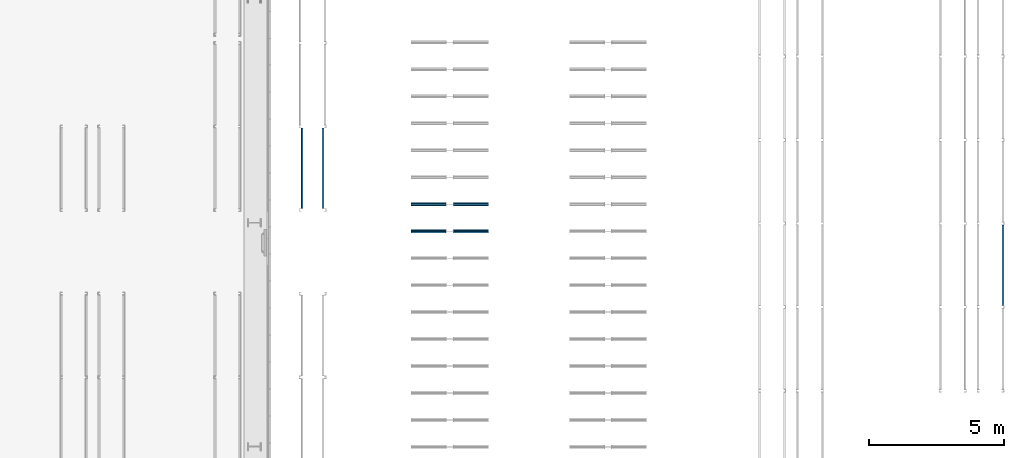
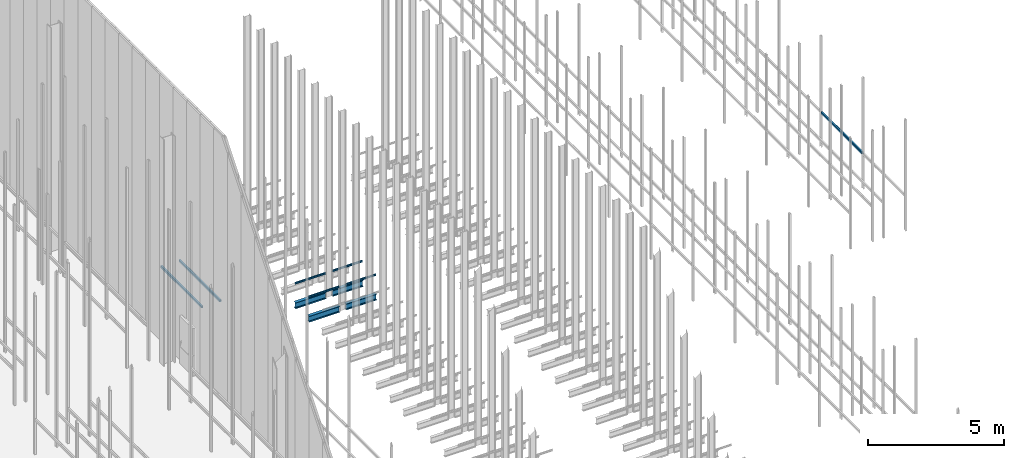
# One storey, part 180 of 302: 11 beams.
"""IFC2X3 building model written with IfcOpenShell, lengths in metres."""

from ifc_helpers import new_model, entity, si_unit, converted_unit, derived_unit, direction, frame, frame_2d, origin, place, context, subcontext, project, spatial, polyline, circle_curve, parameter, trimmed, segment, composite_curve, i_section, outline, extrude, material, type_object, element, save


model = new_model("IFC2X3")

# Units and contexts
model_context = context("Model", 3, precision=1e-05, world=origin(), true_north=direction((6.12303176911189e-17, 1.0)))
body_context = subcontext(model_context, "Body", "Model", "MODEL_VIEW")
ifc_project = project(units=[si_unit("LENGTHUNIT", "METRE"), si_unit("AREAUNIT", "SQUARE_METRE"), si_unit("VOLUMEUNIT", "CUBIC_METRE"), converted_unit("PLANEANGLEUNIT", "DEGREE", entity("IfcRatioMeasure", 0.0174532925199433), si_unit("PLANEANGLEUNIT", "RADIAN"), dimensions=[0, 0, 0, 0, 0, 0, 0]), si_unit("MASSUNIT", "GRAM", prefix="KILO"), derived_unit("MASSDENSITYUNIT", [(si_unit("MASSUNIT", "GRAM", prefix="KILO"), 1), (si_unit("LENGTHUNIT", "METRE"), -3)]), derived_unit("MOMENTOFINERTIAUNIT", [(si_unit("LENGTHUNIT", "METRE"), 4)]), si_unit("TIMEUNIT", "SECOND"), si_unit("FREQUENCYUNIT", "HERTZ"), si_unit("THERMODYNAMICTEMPERATUREUNIT", "DEGREE_CELSIUS"), derived_unit("THERMALTRANSMITTANCEUNIT", [(si_unit("MASSUNIT", "GRAM", prefix="KILO"), 1), (si_unit("THERMODYNAMICTEMPERATUREUNIT", "KELVIN"), -1), (si_unit("TIMEUNIT", "SECOND"), -3)]), derived_unit("VOLUMETRICFLOWRATEUNIT", [(si_unit("LENGTHUNIT", "METRE"), 3), (si_unit("TIMEUNIT", "SECOND"), -1)]), si_unit("ELECTRICCURRENTUNIT", "AMPERE"), si_unit("ELECTRICVOLTAGEUNIT", "VOLT"), si_unit("POWERUNIT", "WATT"), si_unit("FORCEUNIT", "NEWTON", prefix="KILO"), si_unit("ILLUMINANCEUNIT", "LUX"), si_unit("LUMINOUSFLUXUNIT", "LUMEN"), si_unit("LUMINOUSINTENSITYUNIT", "CANDELA"), derived_unit("USERDEFINED", [(si_unit("MASSUNIT", "GRAM", prefix="KILO"), -1), (si_unit("LENGTHUNIT", "METRE"), -2), (si_unit("TIMEUNIT", "SECOND"), 3), (si_unit("LUMINOUSFLUXUNIT", "LUMEN"), 1)]), derived_unit("LINEARVELOCITYUNIT", [(si_unit("LENGTHUNIT", "METRE"), 1), (si_unit("TIMEUNIT", "SECOND"), -1)]), si_unit("PRESSUREUNIT", "PASCAL"), derived_unit("USERDEFINED", [(si_unit("LENGTHUNIT", "METRE"), -2), (si_unit("MASSUNIT", "GRAM", prefix="KILO"), 1), (si_unit("TIMEUNIT", "SECOND"), -2)]), derived_unit("LINEARFORCEUNIT", [(si_unit("MASSUNIT", "GRAM", prefix="KILO"), 1), (si_unit("LENGTHUNIT", "METRE"), 1), (si_unit("TIMEUNIT", "SECOND"), -2), (si_unit("LENGTHUNIT", "METRE"), -1)]), derived_unit("PLANARFORCEUNIT", [(si_unit("MASSUNIT", "GRAM", prefix="KILO"), 1), (si_unit("LENGTHUNIT", "METRE"), 1), (si_unit("TIMEUNIT", "SECOND"), -2), (si_unit("LENGTHUNIT", "METRE"), -2)])], contexts=[model_context])

# Site, building, storey
site_placement = place(None, origin())
site = spatial("IfcSite", under=ifc_project, at=site_placement, Name="Default", CompositionType="ELEMENT")
building_placement = place(site_placement, origin())
building = spatial("IfcBuilding", under=site, at=building_placement, CompositionType="ELEMENT")
storey_placement = place(building_placement, frame((0.0, 0.0, -1.3)))
storey = spatial("IfcBuildingStorey", under=building, at=storey_placement, Name="00_EG", CompositionType="ELEMENT", Elevation=-1.3)

# Beams
ifc_material_1 = material(Name="Metall - Baustahl S235 blau")
beam_type_1 = type_object("IfcBeamType", Name="RHS Träger (EN 10219-2):RHS 100 x 75 x 5", PredefinedType="NOTDEFINED")
beam_1_placement = place(storey_placement, frame((-175.305111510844, 48.8480889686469, 2.885), z_axis=(0.0, 0.0, 1.0), x_axis=(0.0, 1.0, 0.0)))
element("IfcBeam", 1, at=beam_1_placement, inside=storey, type_object=beam_type_1, material=ifc_material_1, Name="RHS Träger (EN 10219-2):RHS 100 x 75 x 5", ObjectType="RHS Träger (EN 10219-2):RHS 100 x 75 x 5", context=body_context, shape_type="SweptSolid", body=[
    extrude(outline(composite_curve([segment(trimmed(circle_curve(frame_2d((-0.0274999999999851, -0.0400000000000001), x_axis=(1.0, 0.0)), 0.01), [parameter(180.0)], [parameter(270.0)], True, "PARAMETER"), True, "CONTINUOUS"), segment(polyline([(-0.0274999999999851, -0.05), (0.0274999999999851, -0.05)]), True, "CONTINUOUS"), segment(trimmed(circle_curve(frame_2d((0.0274999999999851, -0.0400000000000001), x_axis=(1.0, 0.0)), 0.01), [parameter(270.0)], [parameter(5.08888749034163e-14)], True, "PARAMETER"), True, "CONTINUOUS"), segment(polyline([(0.0375000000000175, -0.0399999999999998), (0.0375000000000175, 0.0400000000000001)]), True, "CONTINUOUS"), segment(trimmed(circle_curve(frame_2d((0.0274999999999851, 0.0399999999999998), x_axis=(1.0, 0.0)), 0.01), [parameter(360.0)], [parameter(89.9999999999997)], True, "PARAMETER"), True, "CONTINUOUS"), segment(polyline([(0.0274999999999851, 0.05), (-0.0274999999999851, 0.05)]), True, "CONTINUOUS"), segment(trimmed(circle_curve(frame_2d((-0.0274999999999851, 0.0399999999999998), x_axis=(1.0, 0.0)), 0.01), [parameter(90.0000000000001)], [parameter(180.0)], True, "PARAMETER"), True, "CONTINUOUS"), segment(polyline([(-0.0374999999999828, 0.0400000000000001), (-0.0374999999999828, -0.0399999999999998)]), True, "CONTINUOUS")], self_intersect=False), holes=[composite_curve([segment(polyline([(0.0274999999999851, -0.0450000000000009), (-0.0274999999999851, -0.0450000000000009)]), True, "CONTINUOUS"), segment(trimmed(circle_curve(frame_2d((-0.0274999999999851, -0.0400000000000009), x_axis=(1.0, 0.0)), 0.005), [parameter(180.0)], [parameter(270.0)], True, "PARAMETER"), False, "CONTINUOUS"), segment(polyline([(-0.0325000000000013, -0.0400000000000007), (-0.0325000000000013, 0.0399999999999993)]), True, "CONTINUOUS"), segment(trimmed(circle_curve(frame_2d((-0.0274999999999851, 0.039999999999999), x_axis=(1.0, 0.0)), 0.005), [parameter(90.0000000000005)], [parameter(180.0)], True, "PARAMETER"), False, "CONTINUOUS"), segment(polyline([(-0.0274999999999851, 0.0449999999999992), (0.0274999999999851, 0.0449999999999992)]), True, "CONTINUOUS"), segment(trimmed(circle_curve(frame_2d((0.0274999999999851, 0.039999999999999), x_axis=(1.0, 0.0)), 0.005), [parameter(0.0)], [parameter(90.0000000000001)], True, "PARAMETER"), False, "CONTINUOUS"), segment(polyline([(0.0325000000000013, 0.0399999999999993), (0.0325000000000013, -0.0400000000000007)]), True, "CONTINUOUS"), segment(trimmed(circle_curve(frame_2d((0.0274999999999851, -0.0400000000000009), x_axis=(1.0, 0.0)), 0.005), [parameter(270.0)], [parameter(4.07110999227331e-13)], True, "PARAMETER"), False, "CONTINUOUS")], self_intersect=False)]), frame((0.000100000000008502, 0.0375000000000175, -0.0500000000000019), z_axis=(1.0, 0.0, 0.0), x_axis=(0.0, -1.0, 0.0)), (0.0, 0.0, 1.0), 2.99979999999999),
])
beam_2_placement = place(storey_placement, frame((-176.155111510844, 48.8480889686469, 2.885), z_axis=(0.0, 0.0, 1.0), x_axis=(0.0, 1.0, 0.0)))
element("IfcBeam", 2, at=beam_2_placement, inside=storey, type_object=beam_type_1, material=ifc_material_1, Name="RHS Träger (EN 10219-2):RHS 100 x 75 x 5", ObjectType="RHS Träger (EN 10219-2):RHS 100 x 75 x 5", context=body_context, shape_type="SweptSolid", body=[
    extrude(outline(composite_curve([segment(polyline([(-0.0399999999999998, -0.0374999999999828), (0.0400000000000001, -0.0374999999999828)]), True, "CONTINUOUS"), segment(trimmed(circle_curve(frame_2d((0.0399999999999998, -0.0274999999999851), x_axis=(0.0, 1.0)), 0.01), [parameter(180.0)], [parameter(270.0)], True, "PARAMETER"), True, "CONTINUOUS"), segment(polyline([(0.05, -0.0274999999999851), (0.05, 0.0274999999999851)]), True, "CONTINUOUS"), segment(trimmed(circle_curve(frame_2d((0.0399999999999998, 0.0274999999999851), x_axis=(0.0, 1.0)), 0.01), [parameter(270.0)], [parameter(4.07110999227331e-13)], True, "PARAMETER"), True, "CONTINUOUS"), segment(polyline([(0.0400000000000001, 0.0375000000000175), (-0.0399999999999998, 0.0375000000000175)]), True, "CONTINUOUS"), segment(trimmed(circle_curve(frame_2d((-0.0400000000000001, 0.0274999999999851), x_axis=(0.0, 1.0)), 0.01), [parameter(360.0)], [parameter(90.0000000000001)], True, "PARAMETER"), True, "CONTINUOUS"), segment(polyline([(-0.05, 0.0274999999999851), (-0.05, -0.0274999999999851)]), True, "CONTINUOUS"), segment(trimmed(circle_curve(frame_2d((-0.0400000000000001, -0.0274999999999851), x_axis=(0.0, 1.0)), 0.01), [parameter(90.0000000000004)], [parameter(180.0)], True, "PARAMETER"), True, "CONTINUOUS")], self_intersect=False), holes=[composite_curve([segment(trimmed(circle_curve(frame_2d((-0.0400000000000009, 0.0274999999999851), x_axis=(0.0, 1.0)), 0.005), [parameter(360.0)], [parameter(89.9999999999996)], True, "PARAMETER"), False, "CONTINUOUS"), segment(polyline([(-0.0400000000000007, 0.0325000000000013), (0.0399999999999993, 0.0325000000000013)]), True, "CONTINUOUS"), segment(trimmed(circle_curve(frame_2d((0.039999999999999, 0.0274999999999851), x_axis=(0.0, 1.0)), 0.005), [parameter(270.0)], [parameter(0.0)], True, "PARAMETER"), False, "CONTINUOUS"), segment(polyline([(0.0449999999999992, 0.0274999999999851), (0.0449999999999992, -0.0274999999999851)]), True, "CONTINUOUS"), segment(trimmed(circle_curve(frame_2d((0.039999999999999, -0.0274999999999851), x_axis=(0.0, 1.0)), 0.005), [parameter(180.0)], [parameter(269.999999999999)], True, "PARAMETER"), False, "CONTINUOUS"), segment(polyline([(0.0399999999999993, -0.0325000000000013), (-0.0400000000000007, -0.0325000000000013)]), True, "CONTINUOUS"), segment(trimmed(circle_curve(frame_2d((-0.0400000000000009, -0.0274999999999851), x_axis=(0.0, 1.0)), 0.005), [parameter(90.0000000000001)], [parameter(180.0)], True, "PARAMETER"), False, "CONTINUOUS"), segment(polyline([(-0.0450000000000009, -0.0274999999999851), (-0.0450000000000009, 0.0274999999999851)]), True, "CONTINUOUS")], self_intersect=False)]), frame((0.000100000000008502, -0.0375000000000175, -0.0500000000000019), z_axis=(1.0, 0.0, 0.0), x_axis=(0.0, 0.0, -1.0)), (0.0, 0.0, 1.0), 2.99979999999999),
])
beam_3_placement = place(storey_placement, frame((-150.168311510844, 45.2480889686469, 2.885), z_axis=(0.0, 0.0, 1.0), x_axis=(0.0, 1.0, 0.0)))
element("IfcBeam", 3, at=beam_3_placement, inside=storey, type_object=beam_type_1, material=ifc_material_1, Name="RHS Träger (EN 10219-2):RHS 100 x 75 x 5", ObjectType="RHS Träger (EN 10219-2):RHS 100 x 75 x 5", context=body_context, shape_type="SweptSolid", body=[
    extrude(outline(composite_curve([segment(polyline([(-0.0399999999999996, -0.0375000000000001), (0.0400000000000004, -0.0375000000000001)]), True, "CONTINUOUS"), segment(trimmed(circle_curve(frame_2d((0.0400000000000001, -0.0275000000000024), x_axis=(0.0, 1.0)), 0.01), [parameter(180.0)], [parameter(270.0)], True, "PARAMETER"), True, "CONTINUOUS"), segment(polyline([(0.0500000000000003, -0.0275000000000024), (0.0500000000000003, 0.0275000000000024)]), True, "CONTINUOUS"), segment(trimmed(circle_curve(frame_2d((0.0400000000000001, 0.0275000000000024), x_axis=(0.0, 1.0)), 0.01), [parameter(270.0)], [parameter(4.07110999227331e-13)], True, "PARAMETER"), True, "CONTINUOUS"), segment(polyline([(0.0400000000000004, 0.0375000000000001), (-0.0399999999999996, 0.0375000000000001)]), True, "CONTINUOUS"), segment(trimmed(circle_curve(frame_2d((-0.0399999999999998, 0.0275000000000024), x_axis=(0.0, 1.0)), 0.01), [parameter(360.0)], [parameter(90.0000000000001)], True, "PARAMETER"), True, "CONTINUOUS"), segment(polyline([(-0.0499999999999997, 0.0275000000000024), (-0.0499999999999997, -0.0275000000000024)]), True, "CONTINUOUS"), segment(trimmed(circle_curve(frame_2d((-0.0399999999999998, -0.0275000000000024), x_axis=(0.0, 1.0)), 0.01), [parameter(90.0000000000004)], [parameter(180.0)], True, "PARAMETER"), True, "CONTINUOUS")], self_intersect=False), holes=[composite_curve([segment(trimmed(circle_curve(frame_2d((-0.0400000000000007, 0.0275000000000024), x_axis=(0.0, 1.0)), 0.005), [parameter(360.0)], [parameter(89.9999999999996)], True, "PARAMETER"), False, "CONTINUOUS"), segment(polyline([(-0.0400000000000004, 0.0325000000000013), (0.0399999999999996, 0.0325000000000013)]), True, "CONTINUOUS"), segment(trimmed(circle_curve(frame_2d((0.0399999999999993, 0.0275000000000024), x_axis=(0.0, 1.0)), 0.005), [parameter(270.0)], [parameter(0.0)], True, "PARAMETER"), False, "CONTINUOUS"), segment(polyline([(0.0449999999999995, 0.0275000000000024), (0.0449999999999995, -0.0275000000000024)]), True, "CONTINUOUS"), segment(trimmed(circle_curve(frame_2d((0.0399999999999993, -0.0275000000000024), x_axis=(0.0, 1.0)), 0.005), [parameter(180.0)], [parameter(269.999999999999)], True, "PARAMETER"), False, "CONTINUOUS"), segment(polyline([(0.0399999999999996, -0.0325000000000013), (-0.0400000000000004, -0.0325000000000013)]), True, "CONTINUOUS"), segment(trimmed(circle_curve(frame_2d((-0.0400000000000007, -0.0275000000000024), x_axis=(0.0, 1.0)), 0.005), [parameter(90.0000000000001)], [parameter(180.0)], True, "PARAMETER"), False, "CONTINUOUS"), segment(polyline([(-0.0450000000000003, -0.0275000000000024), (-0.0450000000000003, 0.0275000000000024)]), True, "CONTINUOUS")], self_intersect=False)]), frame((0.000100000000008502, -0.0375000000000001, -0.0500000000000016), z_axis=(1.0, 0.0, 0.0), x_axis=(0.0, 0.0, -1.0)), (0.0, 0.0, 1.0), 2.99979999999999),
])
ifc_material_2 = material(Name="Metall - Baustahl S235")
beam_type_2 = type_object("IfcBeamType", Name="IPN Träger:IPN 80", PredefinedType="NOTDEFINED")
beam_4_placement = place(storey_placement, frame((-170.510111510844, 48.9945889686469, 2.42)))
element("IfcBeam", 4, at=beam_4_placement, inside=storey, type_object=beam_type_2, material=ifc_material_2, Name="IPN Träger:IPN 80", ObjectType="IPN Träger:IPN 80", context=body_context, shape_type="SweptSolid", body=[
    extrude(outline(composite_curve([segment(polyline([(0.0375704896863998, -0.0209999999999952), (0.0399999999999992, -0.0209999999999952)]), True, "CONTINUOUS"), segment(polyline([(0.0399999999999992, -0.0209999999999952), (0.0399999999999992, 0.0210000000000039)]), True, "CONTINUOUS"), segment(polyline([(0.039999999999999, 0.0210000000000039), (0.037570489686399, 0.0210000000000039)]), True, "CONTINUOUS"), segment(trimmed(circle_curve(frame_2d((0.0375704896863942, 0.0187000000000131), x_axis=(0.0, 1.0)), 0.0022999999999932), [parameter(0.0)], [parameter(82.0300000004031)], True, "PARAMETER"), True, "CONTINUOUS"), segment(polyline([(0.0352927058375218, 0.0190189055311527), (0.0333732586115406, 0.0053092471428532)]), True, "CONTINUOUS"), segment(trimmed(circle_curve(frame_2d((0.0295109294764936, 0.005850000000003), x_axis=(0.990340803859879, -0.138654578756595)), 0.00389999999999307), [parameter(277.969999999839)], [parameter(0.0)], True, "PARAMETER"), False, "CONTINUOUS"), segment(polyline([(0.0295109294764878, 0.00195000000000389), (-0.0295109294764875, 0.00195000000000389)]), True, "CONTINUOUS"), segment(trimmed(circle_curve(frame_2d((-0.0295109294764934, 0.005850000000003), x_axis=(0.0, -1.0)), 0.00389999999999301), [parameter(277.969999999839)], [parameter(0.0)], True, "PARAMETER"), False, "CONTINUOUS"), segment(polyline([(-0.0333732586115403, 0.0053092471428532), (-0.0352927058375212, 0.0190189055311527)]), True, "CONTINUOUS"), segment(trimmed(circle_curve(frame_2d((-0.0375704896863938, 0.0187000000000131), x_axis=(0.990340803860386, 0.138654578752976)), 0.00229999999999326), [parameter(0.0)], [parameter(82.0300000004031)], True, "PARAMETER"), True, "CONTINUOUS"), segment(polyline([(-0.0375704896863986, 0.0210000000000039), (-0.0400000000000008, 0.0210000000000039)]), True, "CONTINUOUS"), segment(polyline([(-0.0400000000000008, 0.0210000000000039), (-0.0400000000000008, -0.0209999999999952)]), True, "CONTINUOUS"), segment(polyline([(-0.0400000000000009, -0.0209999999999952), (-0.037570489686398, -0.0209999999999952)]), True, "CONTINUOUS"), segment(trimmed(circle_curve(frame_2d((-0.0375704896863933, -0.0186999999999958), x_axis=(0.0, -1.0)), 0.00229999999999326), [parameter(0.0)], [parameter(82.0300000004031)], True, "PARAMETER"), True, "CONTINUOUS"), segment(polyline([(-0.0352927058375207, -0.0190189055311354), (-0.0333732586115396, -0.00530924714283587)]), True, "CONTINUOUS"), segment(trimmed(circle_curve(frame_2d((-0.0295109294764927, -0.00584999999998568), x_axis=(-0.990340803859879, 0.138654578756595)), 0.00389999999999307), [parameter(277.969999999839)], [parameter(0.0)], True, "PARAMETER"), False, "CONTINUOUS"), segment(polyline([(-0.0295109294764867, -0.00194999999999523), (0.0295109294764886, -0.00194999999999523)]), True, "CONTINUOUS"), segment(trimmed(circle_curve(frame_2d((0.0295109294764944, -0.00584999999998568), x_axis=(0.0, 1.0)), 0.00389999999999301), [parameter(277.969999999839)], [parameter(0.0)], True, "PARAMETER"), False, "CONTINUOUS"), segment(polyline([(0.0333732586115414, -0.00530924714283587), (0.0352927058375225, -0.0190189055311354)]), True, "CONTINUOUS"), segment(trimmed(circle_curve(frame_2d((0.0375704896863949, -0.0186999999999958), x_axis=(-0.990340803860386, -0.138654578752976)), 0.00229999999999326), [parameter(0.0)], [parameter(82.0300000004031)], True, "PARAMETER"), True, "CONTINUOUS")], self_intersect=False)), frame((0.000100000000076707, 0.0209999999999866, -0.0400000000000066), z_axis=(1.0, 0.0, 0.0), x_axis=(0.0, 0.0, -1.0)), (0.0, 0.0, 1.0), 1.29990000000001),
])
beam_5_placement = place(storey_placement, frame((-170.780111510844, 49.0365889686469, 2.42), z_axis=(0.0, 0.0, 1.0), x_axis=(-1.0, 0.0, 0.0)))
element("IfcBeam", 5, at=beam_5_placement, inside=storey, type_object=beam_type_2, material=ifc_material_2, Name="IPN Träger:IPN 80", ObjectType="IPN Träger:IPN 80", context=body_context, shape_type="SweptSolid", body=[
    extrude(outline(composite_curve([segment(polyline([(0.0375704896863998, -0.0210000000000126), (0.0399999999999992, -0.0210000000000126)]), True, "CONTINUOUS"), segment(polyline([(0.0399999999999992, -0.0210000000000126), (0.0399999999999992, 0.0209999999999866)]), True, "CONTINUOUS"), segment(polyline([(0.039999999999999, 0.0209999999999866), (0.037570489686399, 0.0209999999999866)]), True, "CONTINUOUS"), segment(trimmed(circle_curve(frame_2d((0.0375704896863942, 0.0186999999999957), x_axis=(0.0, 1.0)), 0.0022999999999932), [parameter(0.0)], [parameter(82.0300000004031)], True, "PARAMETER"), True, "CONTINUOUS"), segment(polyline([(0.0352927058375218, 0.0190189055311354), (0.0333732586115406, 0.00530924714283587)]), True, "CONTINUOUS"), segment(trimmed(circle_curve(frame_2d((0.0295109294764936, 0.00584999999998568), x_axis=(0.990340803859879, -0.138654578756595)), 0.00389999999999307), [parameter(277.969999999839)], [parameter(0.0)], True, "PARAMETER"), False, "CONTINUOUS"), segment(polyline([(0.0295109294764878, 0.00194999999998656), (-0.0295109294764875, 0.00194999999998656)]), True, "CONTINUOUS"), segment(trimmed(circle_curve(frame_2d((-0.0295109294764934, 0.00584999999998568), x_axis=(0.0, -1.0)), 0.00389999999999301), [parameter(277.969999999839)], [parameter(0.0)], True, "PARAMETER"), False, "CONTINUOUS"), segment(polyline([(-0.0333732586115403, 0.00530924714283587), (-0.0352927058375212, 0.0190189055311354)]), True, "CONTINUOUS"), segment(trimmed(circle_curve(frame_2d((-0.0375704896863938, 0.0186999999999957), x_axis=(0.990340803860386, 0.138654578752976)), 0.00229999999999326), [parameter(0.0)], [parameter(82.0300000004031)], True, "PARAMETER"), True, "CONTINUOUS"), segment(polyline([(-0.0375704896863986, 0.0209999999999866), (-0.0400000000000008, 0.0209999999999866)]), True, "CONTINUOUS"), segment(polyline([(-0.0400000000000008, 0.0209999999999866), (-0.0400000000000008, -0.0210000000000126)]), True, "CONTINUOUS"), segment(polyline([(-0.0400000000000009, -0.0210000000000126), (-0.037570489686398, -0.0210000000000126)]), True, "CONTINUOUS"), segment(trimmed(circle_curve(frame_2d((-0.0375704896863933, -0.0187000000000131), x_axis=(0.0, -1.0)), 0.00229999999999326), [parameter(0.0)], [parameter(82.0300000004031)], True, "PARAMETER"), True, "CONTINUOUS"), segment(polyline([(-0.0352927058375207, -0.0190189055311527), (-0.0333732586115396, -0.0053092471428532)]), True, "CONTINUOUS"), segment(trimmed(circle_curve(frame_2d((-0.0295109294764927, -0.005850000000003), x_axis=(-0.990340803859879, 0.138654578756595)), 0.00389999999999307), [parameter(277.969999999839)], [parameter(0.0)], True, "PARAMETER"), False, "CONTINUOUS"), segment(polyline([(-0.0295109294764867, -0.00195000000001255), (0.0295109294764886, -0.00195000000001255)]), True, "CONTINUOUS"), segment(trimmed(circle_curve(frame_2d((0.0295109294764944, -0.005850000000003), x_axis=(0.0, 1.0)), 0.00389999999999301), [parameter(277.969999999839)], [parameter(0.0)], True, "PARAMETER"), False, "CONTINUOUS"), segment(polyline([(0.0333732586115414, -0.0053092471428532), (0.0352927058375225, -0.0190189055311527)]), True, "CONTINUOUS"), segment(trimmed(circle_curve(frame_2d((0.0375704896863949, -0.0187000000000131), x_axis=(-0.990340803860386, -0.138654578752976)), 0.00229999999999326), [parameter(0.0)], [parameter(82.0300000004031)], True, "PARAMETER"), True, "CONTINUOUS")], self_intersect=False)), frame((0.000100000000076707, 0.0210000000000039, -0.0400000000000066), z_axis=(1.0, 0.0, 0.0), x_axis=(0.0, 0.0, -1.0)), (0.0, 0.0, 1.0), 1.29990000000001),
])
beam_6_placement = place(storey_placement, frame((-170.510111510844, 47.9945889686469, 2.42)))
element("IfcBeam", 6, at=beam_6_placement, inside=storey, type_object=beam_type_2, material=ifc_material_2, Name="IPN Träger:IPN 80", ObjectType="IPN Träger:IPN 80", context=body_context, shape_type="SweptSolid", body=[
    extrude(outline(composite_curve([segment(polyline([(0.0375704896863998, -0.0209999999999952), (0.0399999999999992, -0.0209999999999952)]), True, "CONTINUOUS"), segment(polyline([(0.0399999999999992, -0.0209999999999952), (0.0399999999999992, 0.0210000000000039)]), True, "CONTINUOUS"), segment(polyline([(0.039999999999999, 0.0210000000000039), (0.037570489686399, 0.0210000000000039)]), True, "CONTINUOUS"), segment(trimmed(circle_curve(frame_2d((0.0375704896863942, 0.0187000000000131), x_axis=(0.0, 1.0)), 0.0022999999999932), [parameter(0.0)], [parameter(82.0300000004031)], True, "PARAMETER"), True, "CONTINUOUS"), segment(polyline([(0.0352927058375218, 0.0190189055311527), (0.0333732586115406, 0.0053092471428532)]), True, "CONTINUOUS"), segment(trimmed(circle_curve(frame_2d((0.0295109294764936, 0.005850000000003), x_axis=(0.990340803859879, -0.138654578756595)), 0.00389999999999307), [parameter(277.969999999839)], [parameter(0.0)], True, "PARAMETER"), False, "CONTINUOUS"), segment(polyline([(0.0295109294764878, 0.00195000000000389), (-0.0295109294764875, 0.00195000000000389)]), True, "CONTINUOUS"), segment(trimmed(circle_curve(frame_2d((-0.0295109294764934, 0.005850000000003), x_axis=(0.0, -1.0)), 0.00389999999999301), [parameter(277.969999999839)], [parameter(0.0)], True, "PARAMETER"), False, "CONTINUOUS"), segment(polyline([(-0.0333732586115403, 0.0053092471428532), (-0.0352927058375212, 0.0190189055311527)]), True, "CONTINUOUS"), segment(trimmed(circle_curve(frame_2d((-0.0375704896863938, 0.0187000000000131), x_axis=(0.990340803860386, 0.138654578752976)), 0.00229999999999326), [parameter(0.0)], [parameter(82.0300000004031)], True, "PARAMETER"), True, "CONTINUOUS"), segment(polyline([(-0.0375704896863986, 0.0210000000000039), (-0.0400000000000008, 0.0210000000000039)]), True, "CONTINUOUS"), segment(polyline([(-0.0400000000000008, 0.0210000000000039), (-0.0400000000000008, -0.0209999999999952)]), True, "CONTINUOUS"), segment(polyline([(-0.0400000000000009, -0.0209999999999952), (-0.037570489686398, -0.0209999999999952)]), True, "CONTINUOUS"), segment(trimmed(circle_curve(frame_2d((-0.0375704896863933, -0.0186999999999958), x_axis=(0.0, -1.0)), 0.00229999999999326), [parameter(0.0)], [parameter(82.0300000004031)], True, "PARAMETER"), True, "CONTINUOUS"), segment(polyline([(-0.0352927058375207, -0.0190189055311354), (-0.0333732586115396, -0.00530924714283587)]), True, "CONTINUOUS"), segment(trimmed(circle_curve(frame_2d((-0.0295109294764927, -0.00584999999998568), x_axis=(-0.990340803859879, 0.138654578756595)), 0.00389999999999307), [parameter(277.969999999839)], [parameter(0.0)], True, "PARAMETER"), False, "CONTINUOUS"), segment(polyline([(-0.0295109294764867, -0.00194999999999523), (0.0295109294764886, -0.00194999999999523)]), True, "CONTINUOUS"), segment(trimmed(circle_curve(frame_2d((0.0295109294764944, -0.00584999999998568), x_axis=(0.0, 1.0)), 0.00389999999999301), [parameter(277.969999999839)], [parameter(0.0)], True, "PARAMETER"), False, "CONTINUOUS"), segment(polyline([(0.0333732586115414, -0.00530924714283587), (0.0352927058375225, -0.0190189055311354)]), True, "CONTINUOUS"), segment(trimmed(circle_curve(frame_2d((0.0375704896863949, -0.0186999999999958), x_axis=(-0.990340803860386, -0.138654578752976)), 0.00229999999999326), [parameter(0.0)], [parameter(82.0300000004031)], True, "PARAMETER"), True, "CONTINUOUS")], self_intersect=False)), frame((0.000100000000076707, 0.0209999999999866, -0.0400000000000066), z_axis=(1.0, 0.0, 0.0), x_axis=(0.0, 0.0, -1.0)), (0.0, 0.0, 1.0), 1.29990000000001),
])
beam_7_placement = place(storey_placement, frame((-170.780111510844, 48.0365889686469, 2.42), z_axis=(0.0, 0.0, 1.0), x_axis=(-1.0, 0.0, 0.0)))
element("IfcBeam", 7, at=beam_7_placement, inside=storey, type_object=beam_type_2, material=ifc_material_2, Name="IPN Träger:IPN 80", ObjectType="IPN Träger:IPN 80", context=body_context, shape_type="SweptSolid", body=[
    extrude(outline(composite_curve([segment(polyline([(0.0375704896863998, -0.0210000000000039), (0.0399999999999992, -0.0210000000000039)]), True, "CONTINUOUS"), segment(polyline([(0.0399999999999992, -0.0210000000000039), (0.0399999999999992, 0.0209999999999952)]), True, "CONTINUOUS"), segment(polyline([(0.039999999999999, 0.0209999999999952), (0.037570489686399, 0.0209999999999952)]), True, "CONTINUOUS"), segment(trimmed(circle_curve(frame_2d((0.0375704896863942, 0.0187000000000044), x_axis=(0.0, 1.0)), 0.0022999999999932), [parameter(0.0)], [parameter(82.0300000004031)], True, "PARAMETER"), True, "CONTINUOUS"), segment(polyline([(0.0352927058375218, 0.019018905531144), (0.0333732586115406, 0.00530924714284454)]), True, "CONTINUOUS"), segment(trimmed(circle_curve(frame_2d((0.0295109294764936, 0.00584999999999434), x_axis=(0.990340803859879, -0.138654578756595)), 0.00389999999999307), [parameter(277.969999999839)], [parameter(0.0)], True, "PARAMETER"), False, "CONTINUOUS"), segment(polyline([(0.0295109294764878, 0.00194999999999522), (-0.0295109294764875, 0.00194999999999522)]), True, "CONTINUOUS"), segment(trimmed(circle_curve(frame_2d((-0.0295109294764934, 0.00584999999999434), x_axis=(0.0, -1.0)), 0.00389999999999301), [parameter(277.969999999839)], [parameter(0.0)], True, "PARAMETER"), False, "CONTINUOUS"), segment(polyline([(-0.0333732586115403, 0.00530924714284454), (-0.0352927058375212, 0.019018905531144)]), True, "CONTINUOUS"), segment(trimmed(circle_curve(frame_2d((-0.0375704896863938, 0.0187000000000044), x_axis=(0.990340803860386, 0.138654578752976)), 0.00229999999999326), [parameter(0.0)], [parameter(82.0300000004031)], True, "PARAMETER"), True, "CONTINUOUS"), segment(polyline([(-0.0375704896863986, 0.0209999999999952), (-0.0400000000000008, 0.0209999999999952)]), True, "CONTINUOUS"), segment(polyline([(-0.0400000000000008, 0.0209999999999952), (-0.0400000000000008, -0.0210000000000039)]), True, "CONTINUOUS"), segment(polyline([(-0.0400000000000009, -0.0210000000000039), (-0.037570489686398, -0.0210000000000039)]), True, "CONTINUOUS"), segment(trimmed(circle_curve(frame_2d((-0.0375704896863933, -0.0187000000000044), x_axis=(0.0, -1.0)), 0.00229999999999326), [parameter(0.0)], [parameter(82.0300000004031)], True, "PARAMETER"), True, "CONTINUOUS"), segment(polyline([(-0.0352927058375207, -0.019018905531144), (-0.0333732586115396, -0.00530924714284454)]), True, "CONTINUOUS"), segment(trimmed(circle_curve(frame_2d((-0.0295109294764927, -0.00584999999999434), x_axis=(-0.990340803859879, 0.138654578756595)), 0.00389999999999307), [parameter(277.969999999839)], [parameter(0.0)], True, "PARAMETER"), False, "CONTINUOUS"), segment(polyline([(-0.0295109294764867, -0.00195000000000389), (0.0295109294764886, -0.00195000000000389)]), True, "CONTINUOUS"), segment(trimmed(circle_curve(frame_2d((0.0295109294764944, -0.00584999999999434), x_axis=(0.0, 1.0)), 0.00389999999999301), [parameter(277.969999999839)], [parameter(0.0)], True, "PARAMETER"), False, "CONTINUOUS"), segment(polyline([(0.0333732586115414, -0.00530924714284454), (0.0352927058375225, -0.019018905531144)]), True, "CONTINUOUS"), segment(trimmed(circle_curve(frame_2d((0.0375704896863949, -0.0187000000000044), x_axis=(-0.990340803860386, -0.138654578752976)), 0.00229999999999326), [parameter(0.0)], [parameter(82.0300000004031)], True, "PARAMETER"), True, "CONTINUOUS")], self_intersect=False)), frame((0.000100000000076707, 0.0209999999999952, -0.0400000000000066), z_axis=(1.0, 0.0, 0.0), x_axis=(0.0, 0.0, -1.0)), (0.0, 0.0, 1.0), 1.29990000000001),
])
beam_type_3 = type_object("IfcBeamType", Name="IPE Träger:IPE 270", PredefinedType="NOTDEFINED")
beam_8_placement = place(storey_placement, frame((-170.780111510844, 48.0830889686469, 1.54000000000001), z_axis=(0.0, 0.0, 1.0), x_axis=(-1.0, 0.0, 0.0)))
element("IfcBeam", 8, at=beam_8_placement, inside=storey, type_object=beam_type_3, material=ifc_material_2, Name="IPE Träger:IPE 270", ObjectType="IPE Träger:IPE 270", context=body_context, shape_type="SweptSolid", body=[
    extrude(i_section(OverallWidth=0.134999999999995, OverallDepth=0.27, WebThickness=0.0065999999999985, FlangeThickness=0.0102000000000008, FilletRadius=0.0149999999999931, at=frame_2d((5.96744875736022e-16, -8.66667848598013e-15), x_axis=(0.0, 1.0))), frame((0.000100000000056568, 0.0675000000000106, -0.135000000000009), z_axis=(1.0, 0.0, 0.0), x_axis=(0.0, 0.0, -1.0)), (0.0, 0.0, 1.0), 1.29990000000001),
])
beam_9_placement = place(storey_placement, frame((-170.510111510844, 48.0830889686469, 1.54000000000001)))
element("IfcBeam", 9, at=beam_9_placement, inside=storey, type_object=beam_type_3, material=ifc_material_2, Name="IPE Träger:IPE 270", ObjectType="IPE Träger:IPE 270", context=body_context, shape_type="SweptSolid", body=[
    extrude(i_section(OverallWidth=0.134999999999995, OverallDepth=0.27, WebThickness=0.0065999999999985, FlangeThickness=0.0102000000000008, FilletRadius=0.0149999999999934, at=frame_2d((5.96744875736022e-16, -8.66667848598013e-15), x_axis=(0.0, 1.0))), frame((0.000100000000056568, -0.0674999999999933, -0.135000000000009), z_axis=(1.0, 0.0, 0.0), x_axis=(0.0, 0.0, -1.0)), (0.0, 0.0, 1.0), 1.29990000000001),
])
beam_10_placement = place(storey_placement, frame((-170.780111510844, 49.0830889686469, 1.54000000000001), z_axis=(0.0, 0.0, 1.0), x_axis=(-1.0, 0.0, 0.0)))
element("IfcBeam", 10, at=beam_10_placement, inside=storey, type_object=beam_type_3, material=ifc_material_2, Name="IPE Träger:IPE 270", ObjectType="IPE Träger:IPE 270", context=body_context, shape_type="SweptSolid", body=[
    extrude(i_section(OverallWidth=0.134999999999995, OverallDepth=0.27, WebThickness=0.0065999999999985, FlangeThickness=0.0102000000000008, FilletRadius=0.0149999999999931, at=frame_2d((5.96744875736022e-16, 0.0), x_axis=(0.0, 1.0))), frame((0.000100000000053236, 0.067500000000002, -0.135000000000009), z_axis=(1.0, 0.0, 0.0), x_axis=(0.0, 0.0, -1.0)), (0.0, 0.0, 1.0), 1.29990000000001),
])
beam_11_placement = place(storey_placement, frame((-170.510111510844, 49.0830889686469, 1.54000000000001)))
element("IfcBeam", 11, at=beam_11_placement, inside=storey, type_object=beam_type_3, material=ifc_material_2, Name="IPE Träger:IPE 270", ObjectType="IPE Träger:IPE 270", context=body_context, shape_type="SweptSolid", body=[
    extrude(i_section(OverallWidth=0.134999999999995, OverallDepth=0.27, WebThickness=0.0065999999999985, FlangeThickness=0.0102000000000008, FilletRadius=0.0149999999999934, at=frame_2d((5.96744875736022e-16, 0.0), x_axis=(0.0, 1.0))), frame((0.000100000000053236, -0.067500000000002, -0.135000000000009), z_axis=(1.0, 0.0, 0.0), x_axis=(0.0, 0.0, -1.0)), (0.0, 0.0, 1.0), 1.29990000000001),
])

save(model, "model.ifc")
